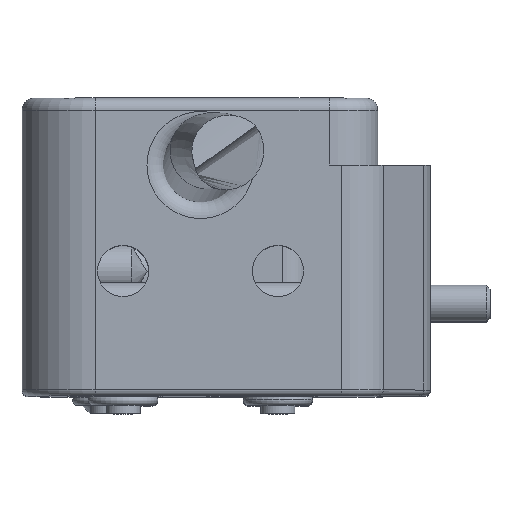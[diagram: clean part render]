
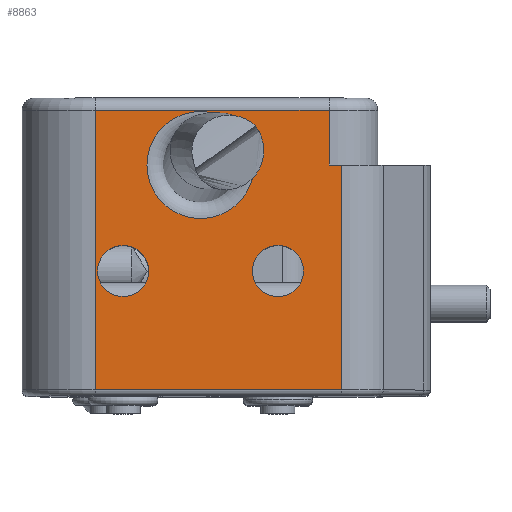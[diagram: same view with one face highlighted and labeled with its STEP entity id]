
A CAD part, top view. The second image highlights one B-rep face of the part: STEP entity #8863.
In plain terms, the highlighted planar face has unit normal (0, 0, 1).
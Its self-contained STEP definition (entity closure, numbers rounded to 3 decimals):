
#275=FACE_BOUND('',#1417,.T.);
#276=FACE_BOUND('',#1418,.T.);
#277=FACE_BOUND('',#1419,.T.);
#467=PLANE('',#9782);
#883=FACE_OUTER_BOUND('',#1416,.T.);
#1416=EDGE_LOOP('',(#7337,#7338,#7339,#7340,#7341,#7342));
#1417=EDGE_LOOP('',(#7343,#7344));
#1418=EDGE_LOOP('',(#7345,#7346));
#1419=EDGE_LOOP('',(#7347,#7348));
#1959=LINE('',#14669,#2575);
#1961=LINE('',#14674,#2577);
#1972=LINE('',#14706,#2588);
#2048=LINE('',#15774,#2664);
#2066=LINE('',#15834,#2682);
#2067=LINE('',#15836,#2683);
#2575=VECTOR('',#11631,10.);
#2577=VECTOR('',#11637,10.);
#2588=VECTOR('',#11666,10.);
#2664=VECTOR('',#12010,10.);
#2682=VECTOR('',#12080,10.);
#2683=VECTOR('',#12083,10.);
#3157=CIRCLE('',#9710,2.1);
#3158=CIRCLE('',#9711,2.1);
#3161=CIRCLE('',#9716,2.1);
#3162=CIRCLE('',#9717,2.1);
#3200=CIRCLE('',#9783,4.4);
#3201=CIRCLE('',#9784,4.4);
#3824=VERTEX_POINT('',#14604);
#3843=VERTEX_POINT('',#14664);
#3844=VERTEX_POINT('',#14673);
#3856=VERTEX_POINT('',#14705);
#3944=VERTEX_POINT('',#15473);
#3945=VERTEX_POINT('',#15474);
#3952=VERTEX_POINT('',#15589);
#3953=VERTEX_POINT('',#15590);
#3979=VERTEX_POINT('',#15766);
#3981=VERTEX_POINT('',#15772);
#3998=VERTEX_POINT('',#15837);
#3999=VERTEX_POINT('',#15838);
#4935=EDGE_CURVE('',#3824,#3843,#1959,.T.);
#4937=EDGE_CURVE('',#3843,#3844,#1961,.T.);
#4953=EDGE_CURVE('',#3856,#3844,#1972,.T.);
#5076=EDGE_CURVE('',#3944,#3945,#3157,.T.);
#5077=EDGE_CURVE('',#3945,#3944,#3158,.T.);
#5086=EDGE_CURVE('',#3952,#3953,#3161,.T.);
#5087=EDGE_CURVE('',#3953,#3952,#3162,.T.);
#5130=EDGE_CURVE('',#3981,#3979,#2048,.T.);
#5162=EDGE_CURVE('',#3856,#3981,#2066,.T.);
#5163=EDGE_CURVE('',#3979,#3824,#2067,.T.);
#5164=EDGE_CURVE('',#3998,#3999,#3200,.T.);
#5165=EDGE_CURVE('',#3999,#3998,#3201,.T.);
#7337=ORIENTED_EDGE('',*,*,#5163,.F.);
#7338=ORIENTED_EDGE('',*,*,#5130,.F.);
#7339=ORIENTED_EDGE('',*,*,#5162,.F.);
#7340=ORIENTED_EDGE('',*,*,#4953,.T.);
#7341=ORIENTED_EDGE('',*,*,#4937,.F.);
#7342=ORIENTED_EDGE('',*,*,#4935,.F.);
#7343=ORIENTED_EDGE('',*,*,#5076,.T.);
#7344=ORIENTED_EDGE('',*,*,#5077,.T.);
#7345=ORIENTED_EDGE('',*,*,#5086,.T.);
#7346=ORIENTED_EDGE('',*,*,#5087,.T.);
#7347=ORIENTED_EDGE('',*,*,#5164,.F.);
#7348=ORIENTED_EDGE('',*,*,#5165,.F.);
#8863=ADVANCED_FACE('',(#883,#275,#276,#277),#467,.T.);
#9710=AXIS2_PLACEMENT_3D('',#15475,#11899,#11900);
#9711=AXIS2_PLACEMENT_3D('',#15476,#11901,#11902);
#9716=AXIS2_PLACEMENT_3D('',#15591,#11914,#11915);
#9717=AXIS2_PLACEMENT_3D('',#15592,#11916,#11917);
#9782=AXIS2_PLACEMENT_3D('',#15835,#12081,#12082);
#9783=AXIS2_PLACEMENT_3D('',#15839,#12084,#12085);
#9784=AXIS2_PLACEMENT_3D('',#15840,#12086,#12087);
#11631=DIRECTION('',(1.,0.,0.));
#11637=DIRECTION('',(0.,-1.,0.));
#11666=DIRECTION('',(-1.,0.,0.));
#11899=DIRECTION('center_axis',(0.,0.,
-1.));
#11900=DIRECTION('ref_axis',(0.,1.,0.));
#11901=DIRECTION('center_axis',(0.,0.,
-1.));
#11902=DIRECTION('ref_axis',(0.,1.,0.));
#11914=DIRECTION('center_axis',(0.,0.,
-1.));
#11915=DIRECTION('ref_axis',(0.,1.,0.));
#11916=DIRECTION('center_axis',(0.,0.,
-1.));
#11917=DIRECTION('ref_axis',(0.,1.,0.));
#12010=DIRECTION('',(-1.,0.,0.));
#12080=DIRECTION('',(0.,-1.,0.));
#12081=DIRECTION('center_axis',(0.,0.,
1.));
#12082=DIRECTION('ref_axis',(0.,1.,0.));
#12083=DIRECTION('',(0.,1.,0.));
#12084=DIRECTION('center_axis',(0.,0.,
1.));
#12085=DIRECTION('ref_axis',(0.,-1.,0.));
#12086=DIRECTION('center_axis',(0.,0.,
1.));
#12087=DIRECTION('ref_axis',(0.,-1.,0.));
#14604=CARTESIAN_POINT('',(-13.05,28.6,26.));
#14664=CARTESIAN_POINT('',(6.15,28.6,26.));
#14669=CARTESIAN_POINT('',(-11.75,28.6,26.));
#14673=CARTESIAN_POINT('',(6.15,24.1,26.));
#14674=CARTESIAN_POINT('',(6.15,29.6,26.));
#14705=CARTESIAN_POINT('',(7.141,24.1,26.));
#14706=CARTESIAN_POINT('',(14.45,24.1,26.));
#15473=CARTESIAN_POINT('',(-10.75,17.5,26.));
#15474=CARTESIAN_POINT('',(-10.75,13.3,26.));
#15475=CARTESIAN_POINT('Origin',(-10.75,15.4,26.));
#15476=CARTESIAN_POINT('Origin',(-10.75,15.4,26.));
#15589=CARTESIAN_POINT('',(1.95,17.5,26.));
#15590=CARTESIAN_POINT('',(1.95,13.3,26.));
#15591=CARTESIAN_POINT('Origin',(1.95,15.4,26.));
#15592=CARTESIAN_POINT('Origin',(1.95,15.4,26.));
#15766=CARTESIAN_POINT('',(-13.05,5.65,26.));
#15772=CARTESIAN_POINT('',(7.141,5.65,26.));
#15774=CARTESIAN_POINT('',(-10.675,5.65,26.));
#15834=CARTESIAN_POINT('',(7.141,24.1,26.));
#15835=CARTESIAN_POINT('Origin',(-19.05,24.1,26.));
#15836=CARTESIAN_POINT('',(-13.05,24.1,26.));
#15837=CARTESIAN_POINT('',(-8.8,24.1,26.));
#15838=CARTESIAN_POINT('',(-4.4,28.5,26.));
#15839=CARTESIAN_POINT('Origin',(-4.4,24.1,26.));
#15840=CARTESIAN_POINT('Origin',(-4.4,24.1,26.));
